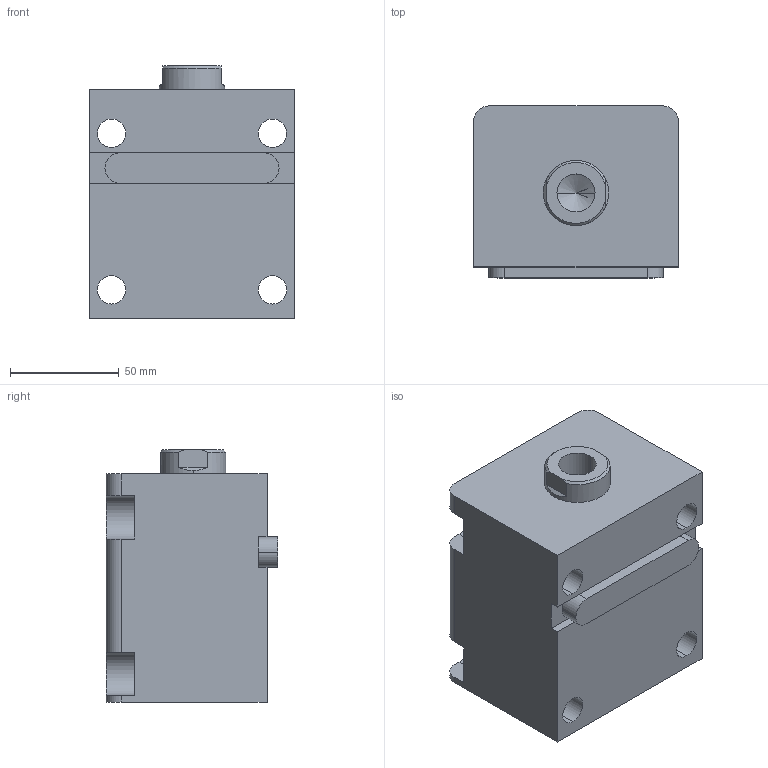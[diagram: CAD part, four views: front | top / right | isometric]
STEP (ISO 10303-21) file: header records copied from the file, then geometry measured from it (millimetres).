
FILE_DESCRIPTION (( 'STEP AP203' ), '1' );
FILE_NAME ('HTB-LA50-45N.STEP', '2019-10-09T07:09:29', ( '微软用户' ), ( '微软中国' ), 'SwSTEP 2.0', 'SolidWorks 2012', '' );
FILE_SCHEMA (( 'CONFIG_CONTROL_DESIGN' ));
Length unit declared in the file: millimetre
Products named in the file (4): HTB-LA50-45N; HTB-LA50-瑩; HTB-LA50-45掛极; HTB-LA50-45N活塞杆
Assembly tree (3 placements, depth 2):
  HTB-LA50-45N
    HTB-LA50-45掛极
    HTB-LA50-45N活塞杆
    HTB-LA50-瑩
Bounding box: 94 x 79 x 116 mm (x, y, z)
Volume: 624414.8 mm3; surface area: 96457.8 mm2
Topology: 3 solids, 3 shells, 86 faces, 213 edges, 139 vertices
Faces by surface type: plane 39, cylinder 35, cone 8, torus 4
Entity records: 3001 total; most frequent: DIRECTION 475, CARTESIAN_POINT 470, ORIENTED_EDGE 422, EDGE_CURVE 211, AXIS2_PLACEMENT_3D 180, VERTEX_POINT 139, VECTOR 115, LINE 115
